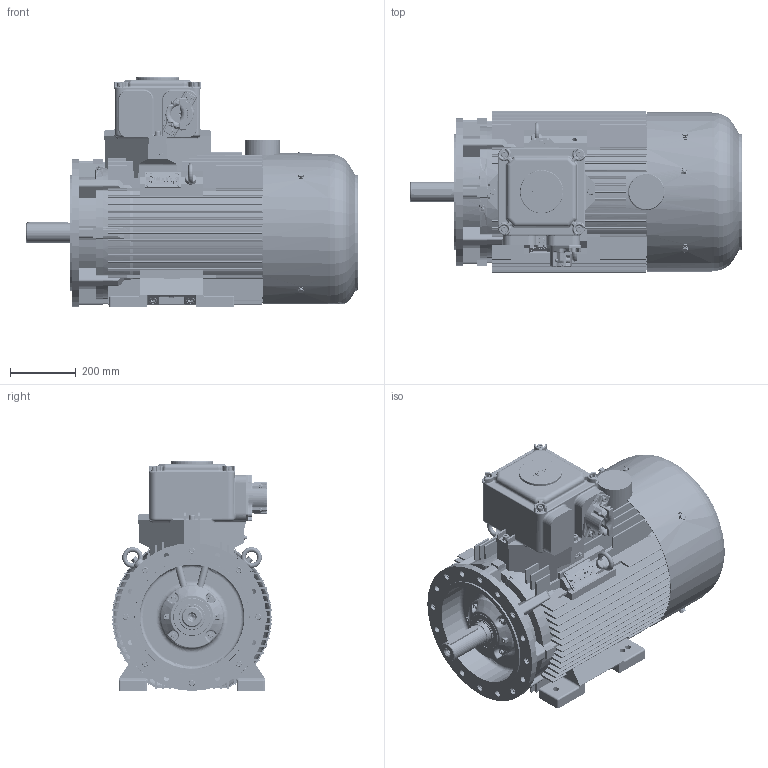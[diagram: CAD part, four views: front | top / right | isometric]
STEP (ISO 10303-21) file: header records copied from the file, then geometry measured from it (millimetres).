
FILE_DESCRIPTION(/* description */ ('Unknown'),/* implementation_level */ '2;1');
FILE_NAME(/* name */ 'Silnik EcSTLe225 (S,M)(4-8) - wykonanie OUTSIDE !',/* time_stamp */ '2021-12-27T09:50:44+01:00',/* author */ ('Unknown'),/* organization */ ('Unknown'),/* preprocessor_version */ 'ST-DEVELOPER v16.7',/* originating_system */ 'DEX',/* authorisation */ $);
FILE_SCHEMA (('AUTOMOTIVE_DESIGN {1 0 10303 214 3 1 1}'));
Products named in the file (1): Silnik EcSTLe225 (S,M)(4-8) - wykonanie OUTSIDE !
Bounding box: 1009.13 x 489.83 x 698.8 mm (x, y, z)
Volume: 32626762.7 mm3; surface area: 7282616.3 mm2
Topology: 3 solids, 92 shells, 9348 faces, 25610 edges, 16368 vertices
Faces by surface type: plane 5696, cylinder 2063, cone 524, torus 442, bspline 431, sphere 192
Full cylindrical faces by diameter (mm): 1.2 x4, 1.6 x2, 2.013 x1, 2.459 x3, 2.5 x2, 3 x8, 3.1 x4, 3.2 x2, 3.4 x6, 4.773 x1, 4.917 x4, 5 x3, 6 x2, 6.2 x14, 6.3 x1, 6.4 x2, 6.466 x8, 6.5 x1, 6.647 x4, 8 x17, 8.16 x4, 8.8 x1, 8.917 x4, 9 x8, 9.853 x24, 10 x20, 10.106 x25, 10.5 x4, 12 x52, 13 x8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
Entity records: 375729 total; most frequent: CARTESIAN_POINT 80844, ORIENTED_EDGE 47622, DIRECTION 45290, EDGE_CURVE 23811, LINE 16322, VECTOR 16322, VERTEX_POINT 15721, AXIS2_PLACEMENT_3D 14484
